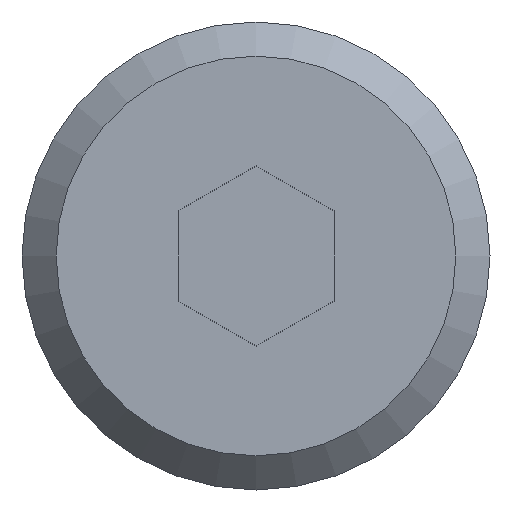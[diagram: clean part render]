
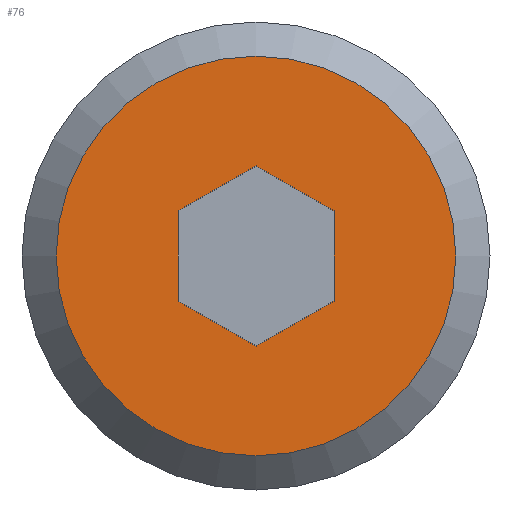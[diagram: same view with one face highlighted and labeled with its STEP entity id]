
A CAD part, front view. The second image highlights one B-rep face of the part: STEP entity #76.
In plain terms, the highlighted planar face has unit normal (0, -1, 0).
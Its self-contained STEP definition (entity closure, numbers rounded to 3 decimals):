
#76 = ADVANCED_FACE( '', ( #94, #95 ), #96, .F. );
#94 = FACE_OUTER_BOUND( '', #132, .T. );
#95 = FACE_BOUND( '', #133, .T. );
#96 = PLANE( '', #134 );
#132 = EDGE_LOOP( '', ( #172 ) );
#133 = EDGE_LOOP( '', ( #173, #174, #175, #176, #177, #178 ) );
#134 = AXIS2_PLACEMENT_3D( '', #179, #180, #181 );
#172 = ORIENTED_EDGE( '', *, *, #264, .F. );
#173 = ORIENTED_EDGE( '', *, *, #265, .T. );
#174 = ORIENTED_EDGE( '', *, *, #266, .T. );
#175 = ORIENTED_EDGE( '', *, *, #267, .T. );
#176 = ORIENTED_EDGE( '', *, *, #268, .T. );
#177 = ORIENTED_EDGE( '', *, *, #269, .T. );
#178 = ORIENTED_EDGE( '', *, *, #270, .T. );
#179 = CARTESIAN_POINT( '', ( 0., 0., 0. ) );
#180 = DIRECTION( '', ( 0., 1., 0. ) );
#181 = DIRECTION( '', ( 0., 0., 1. ) );
#264 = EDGE_CURVE( '', #291, #291, #292, .T. );
#265 = EDGE_CURVE( '', #293, #294, #295, .T. );
#266 = EDGE_CURVE( '', #294, #296, #297, .T. );
#267 = EDGE_CURVE( '', #296, #298, #299, .T. );
#268 = EDGE_CURVE( '', #298, #300, #301, .T. );
#269 = EDGE_CURVE( '', #300, #302, #303, .T. );
#270 = EDGE_CURVE( '', #302, #293, #304, .T. );
#291 = VERTEX_POINT( '', #335 );
#292 = CIRCLE( '', #336, 5.125 );
#293 = VERTEX_POINT( '', #337 );
#294 = VERTEX_POINT( '', #338 );
#295 = LINE( '', #339, #340 );
#296 = VERTEX_POINT( '', #341 );
#297 = LINE( '', #342, #343 );
#298 = VERTEX_POINT( '', #344 );
#299 = LINE( '', #345, #346 );
#300 = VERTEX_POINT( '', #347 );
#301 = LINE( '', #348, #349 );
#302 = VERTEX_POINT( '', #350 );
#303 = LINE( '', #351, #352 );
#304 = LINE( '', #353, #354 );
#335 = CARTESIAN_POINT( '', ( 0., 0., 5.125 ) );
#336 = AXIS2_PLACEMENT_3D( '', #398, #399, #400 );
#337 = CARTESIAN_POINT( '', ( -2., 0., -1.155 ) );
#338 = CARTESIAN_POINT( '', ( -2., 0., 1.155 ) );
#339 = CARTESIAN_POINT( '', ( -2., 0., -1.155 ) );
#340 = VECTOR( '', #401, 1000. );
#341 = CARTESIAN_POINT( '', ( 0., 0., 2.309 ) );
#342 = CARTESIAN_POINT( '', ( -2., 0., 1.155 ) );
#343 = VECTOR( '', #402, 1000. );
#344 = CARTESIAN_POINT( '', ( 2., 0., 1.155 ) );
#345 = CARTESIAN_POINT( '', ( 0., 0., 2.309 ) );
#346 = VECTOR( '', #403, 1000. );
#347 = CARTESIAN_POINT( '', ( 2., 0., -1.155 ) );
#348 = CARTESIAN_POINT( '', ( 2., 0., 1.155 ) );
#349 = VECTOR( '', #404, 1000. );
#350 = CARTESIAN_POINT( '', ( 0., 0., -2.309 ) );
#351 = CARTESIAN_POINT( '', ( 2., 0., -1.155 ) );
#352 = VECTOR( '', #405, 1000. );
#353 = CARTESIAN_POINT( '', ( 0., 0., -2.309 ) );
#354 = VECTOR( '', #406, 1000. );
#398 = CARTESIAN_POINT( '', ( 0., 0., 0. ) );
#399 = DIRECTION( '', ( 0., 1., 0. ) );
#400 = DIRECTION( '', ( 0., 0., 1. ) );
#401 = DIRECTION( '', ( 0., 0., 1. ) );
#402 = DIRECTION( '', ( 0.866, 0., 0.5 ) );
#403 = DIRECTION( '', ( 0.866, 0., -0.5 ) );
#404 = DIRECTION( '', ( 0., 0., -1. ) );
#405 = DIRECTION( '', ( -0.866, 0., -0.5 ) );
#406 = DIRECTION( '', ( -0.866, 0., 0.5 ) );
